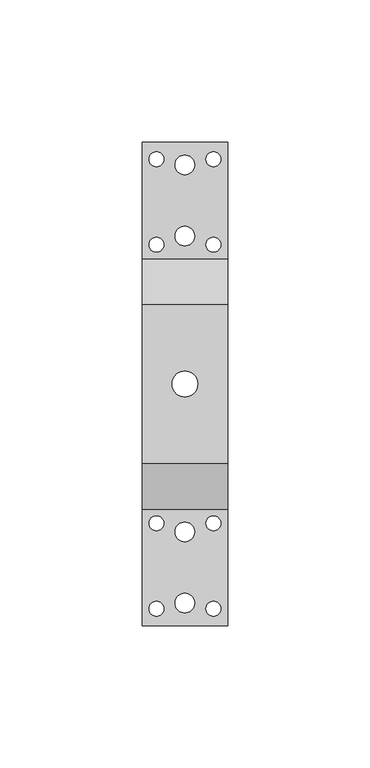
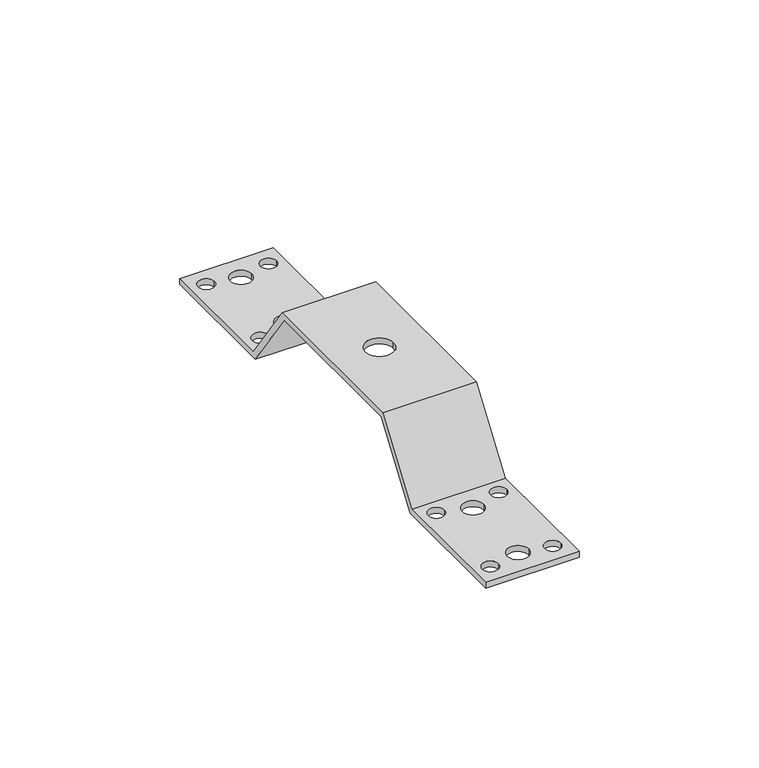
"""IFC4 building model written with IfcOpenShell, lengths in millimetres: proxy geometry, КНС_СкобаСоединительная_DKC : NA1201_Алюминий."""

from ifc_helpers import new_model, si_unit, frame, origin, place, context, project, spatial, polyline, circle_curve, source, transform, mapped, element, save
from ifc_brep_helpers import plane_surface, revolved_surface, advanced_brep


def security_devices_b8804d78(model_context):
    return source(origin(), model_context, "Body", "AdvancedBrep", [
        advanced_brep(
        [(15.0, 85.0, 0.0), (15.0, 85.0, 2.0), (15.0, 44.0411341, 2.0), (15.0, 27.9363607, 25.0), (15.0, -27.9363607, 25.0), (15.0, -44.0411341, 2.0), (15.0, -85.0, 2.0), (15.0, -85.0, 0.0), (15.0, -43.0, 0.0), (15.0, -26.8952266, 23.0), (15.0, 26.8952266, 23.0), (15.0, 43.0, 0.0), (-15.0, 85.0, 0.0), (-15.0, 43.0, 0.0), (-15.0, 26.8952266, 23.0), (-15.0, -26.8952266, 23.0), (-15.0, -43.0, 0.0), (-15.0, -85.0, 0.0), (-15.0, -85.0, 2.0), (-15.0, -44.0411341, 2.0), (-15.0, -27.9363607, 25.0), (-15.0, 27.9363607, 25.0), (-15.0, 44.0411341, 2.0), (-15.0, 85.0, 2.0), (3.45, 77.0, 2.0), (-3.45, 77.0, 2.0), (12.6, 79.0, 2.0), (7.4, 79.0, 2.0), (-7.4, 79.0, 2.0), (-12.6, 79.0, 2.0), (3.45, 52.0, 2.0), (-3.45, 52.0, 2.0), (12.6, 49.0, 2.0), (7.4, 49.0, 2.0), (-7.4, 49.0, 2.0), (-12.6, 49.0, 2.0), (4.5, 0.0, 25.0), (-4.5, 0.0, 25.0), (-4.5, 0.0, 23.0), (4.5, 0.0, 23.0), (-3.45, 77.0, 0.0), (3.45, 77.0, 0.0), (7.4, 79.0, 0.0), (12.6, 79.0, 0.0), (-12.6, 79.0, 0.0), (-7.4, 79.0, 0.0), (-3.45, 52.0, 0.0), (3.45, 52.0, 0.0), (7.4, 49.0, 0.0), (12.6, 49.0, 0.0), (-12.6, 49.0, 0.0), (-7.4, 49.0, 0.0), (-12.6, -49.0, 2.0), (-7.4, -49.0, 2.0), (-3.45, -52.0, 2.0), (3.45, -52.0, 2.0), (7.4, -49.0, 2.0), (12.6, -49.0, 2.0), (7.4, -79.0, 2.0), (12.6, -79.0, 2.0), (-3.45, -77.0, 2.0), (3.45, -77.0, 2.0), (-12.6, -79.0, 2.0), (-7.4, -79.0, 2.0), (-7.4, -49.0, 0.0), (-12.6, -49.0, 0.0), (3.45, -52.0, 0.0), (-3.45, -52.0, 0.0), (12.6, -49.0, 0.0), (7.4, -49.0, 0.0), (12.6, -79.0, 0.0), (7.4, -79.0, 0.0), (3.45, -77.0, 0.0), (-3.45, -77.0, 0.0), (-7.4, -79.0, 0.0), (-12.6, -79.0, 0.0)],
        [
            (0, 1),
            (1, 2),
            (2, 3),
            (3, 4),
            (4, 5),
            (5, 6),
            (6, 7),
            (7, 8),
            (8, 9),
            (9, 10),
            (10, 11),
            (11, 0),
            (12, 13),
            (13, 14),
            (14, 15),
            (15, 16),
            (16, 17),
            (17, 18),
            (18, 19),
            (19, 20),
            (20, 21),
            (21, 22),
            (22, 23),
            (23, 12),
            (0, 12),
            (23, 1),
            (22, 2),
            (24, 25, circle_curve(frame((0.0, 77.0, 2.0), z_axis=(0.0, 0.0, -1.0), x_axis=(1.0, 0.0, 0.0)), 3.45)),
            (25, 24, circle_curve(frame((0.0, 77.0, 2.0), z_axis=(0.0, 0.0, -1.0), x_axis=(1.0, 0.0, 0.0)), 3.45)),
            (26, 27, circle_curve(frame((10.0, 79.0, 2.0), z_axis=(0.0, 0.0, -1.0), x_axis=(-1.0, 0.0, 0.0)), 2.6)),
            (27, 26, circle_curve(frame((10.0, 79.0, 2.0), z_axis=(0.0, 0.0, -1.0), x_axis=(-1.0, 0.0, 0.0)), 2.6)),
            (28, 29, circle_curve(frame((-10.0, 79.0, 2.0), z_axis=(0.0, 0.0, -1.0), x_axis=(1.0, 0.0, 0.0)), 2.6)),
            (29, 28, circle_curve(frame((-10.0, 79.0, 2.0), z_axis=(0.0, 0.0, -1.0), x_axis=(1.0, 0.0, 0.0)), 2.6)),
            (30, 31, circle_curve(frame((0.0, 52.0, 2.0), z_axis=(0.0, 0.0, -1.0), x_axis=(1.0, 0.0, 0.0)), 3.45)),
            (31, 30, circle_curve(frame((0.0, 52.0, 2.0), z_axis=(0.0, 0.0, -1.0), x_axis=(1.0, 0.0, 0.0)), 3.45)),
            (32, 33, circle_curve(frame((10.0, 49.0, 2.0), z_axis=(0.0, 0.0, -1.0), x_axis=(-1.0, 0.0, 0.0)), 2.6)),
            (33, 32, circle_curve(frame((10.0, 49.0, 2.0), z_axis=(0.0, 0.0, -1.0), x_axis=(-1.0, 0.0, 0.0)), 2.6)),
            (34, 35, circle_curve(frame((-10.0, 49.0, 2.0), z_axis=(0.0, 0.0, -1.0), x_axis=(1.0, 0.0, 0.0)), 2.6)),
            (35, 34, circle_curve(frame((-10.0, 49.0, 2.0), z_axis=(0.0, 0.0, -1.0), x_axis=(1.0, 0.0, 0.0)), 2.6)),
            (3, 21),
            (20, 4),
            (36, 37, circle_curve(frame((0.0, 0.0, 25.0), z_axis=(0.0, 0.0, -1.0), x_axis=(1.0, 0.0, 0.0)), 4.5)),
            (37, 36, circle_curve(frame((0.0, 0.0, 25.0), z_axis=(0.0, 0.0, -1.0), x_axis=(1.0, 0.0, 0.0)), 4.5)),
            (9, 15),
            (14, 10),
            (38, 39, circle_curve(frame((0.0, 0.0, 23.0), z_axis=(0.0, 0.0, 1.0), x_axis=(1.0, 0.0, 0.0)), 4.5)),
            (39, 38, circle_curve(frame((0.0, 0.0, 23.0), z_axis=(0.0, 0.0, 1.0), x_axis=(1.0, 0.0, 0.0)), 4.5)),
            (11, 13),
            (40, 41, circle_curve(frame((0.0, 77.0, 0.0), z_axis=(0.0, 0.0, 1.0), x_axis=(1.0, 0.0, 0.0)), 3.45)),
            (41, 40, circle_curve(frame((0.0, 77.0, 0.0), z_axis=(0.0, 0.0, 1.0), x_axis=(1.0, 0.0, 0.0)), 3.45)),
            (42, 43, circle_curve(frame((10.0, 79.0, 0.0), z_axis=(0.0, 0.0, 1.0), x_axis=(-1.0, 0.0, 0.0)), 2.6)),
            (43, 42, circle_curve(frame((10.0, 79.0, 0.0), z_axis=(0.0, 0.0, 1.0), x_axis=(-1.0, 0.0, 0.0)), 2.6)),
            (44, 45, circle_curve(frame((-10.0, 79.0, 0.0), z_axis=(0.0, 0.0, 1.0), x_axis=(1.0, 0.0, 0.0)), 2.6)),
            (45, 44, circle_curve(frame((-10.0, 79.0, 0.0), z_axis=(0.0, 0.0, 1.0), x_axis=(1.0, 0.0, 0.0)), 2.6)),
            (46, 47, circle_curve(frame((0.0, 52.0, 0.0), z_axis=(0.0, 0.0, 1.0), x_axis=(1.0, 0.0, 0.0)), 3.45)),
            (47, 46, circle_curve(frame((0.0, 52.0, 0.0), z_axis=(0.0, 0.0, 1.0), x_axis=(1.0, 0.0, 0.0)), 3.45)),
            (48, 49, circle_curve(frame((10.0, 49.0, 0.0), z_axis=(0.0, 0.0, 1.0), x_axis=(-1.0, 0.0, 0.0)), 2.6)),
            (49, 48, circle_curve(frame((10.0, 49.0, 0.0), z_axis=(0.0, 0.0, 1.0), x_axis=(-1.0, 0.0, 0.0)), 2.6)),
            (50, 51, circle_curve(frame((-10.0, 49.0, 0.0), z_axis=(0.0, 0.0, 1.0), x_axis=(1.0, 0.0, 0.0)), 2.6)),
            (51, 50, circle_curve(frame((-10.0, 49.0, 0.0), z_axis=(0.0, 0.0, 1.0), x_axis=(1.0, 0.0, 0.0)), 2.6)),
            (19, 5),
            (18, 6),
            (52, 53, circle_curve(frame((-10.0, -49.0, 2.0), z_axis=(0.0, 0.0, -1.0), x_axis=(1.0, 0.0, 0.0)), 2.6)),
            (53, 52, circle_curve(frame((-10.0, -49.0, 2.0), z_axis=(0.0, 0.0, -1.0), x_axis=(1.0, 0.0, 0.0)), 2.6)),
            (54, 55, circle_curve(frame((0.0, -52.0, 2.0), z_axis=(0.0, 0.0, -1.0), x_axis=(1.0, 0.0, 0.0)), 3.45)),
            (55, 54, circle_curve(frame((0.0, -52.0, 2.0), z_axis=(0.0, 0.0, -1.0), x_axis=(1.0, 0.0, 0.0)), 3.45)),
            (56, 57, circle_curve(frame((10.0, -49.0, 2.0), z_axis=(0.0, 0.0, -1.0), x_axis=(-1.0, 0.0, 0.0)), 2.6)),
            (57, 56, circle_curve(frame((10.0, -49.0, 2.0), z_axis=(0.0, 0.0, -1.0), x_axis=(-1.0, 0.0, 0.0)), 2.6)),
            (58, 59, circle_curve(frame((10.0, -79.0, 2.0), z_axis=(0.0, 0.0, -1.0), x_axis=(-1.0, 0.0, 0.0)), 2.6)),
            (59, 58, circle_curve(frame((10.0, -79.0, 2.0), z_axis=(0.0, 0.0, -1.0), x_axis=(-1.0, 0.0, 0.0)), 2.6)),
            (60, 61, circle_curve(frame((0.0, -77.0, 2.0), z_axis=(0.0, 0.0, -1.0), x_axis=(1.0, 0.0, 0.0)), 3.45)),
            (61, 60, circle_curve(frame((0.0, -77.0, 2.0), z_axis=(0.0, 0.0, -1.0), x_axis=(1.0, 0.0, 0.0)), 3.45)),
            (62, 63, circle_curve(frame((-10.0, -79.0, 2.0), z_axis=(0.0, 0.0, -1.0), x_axis=(1.0, 0.0, 0.0)), 2.6)),
            (63, 62, circle_curve(frame((-10.0, -79.0, 2.0), z_axis=(0.0, 0.0, -1.0), x_axis=(1.0, 0.0, 0.0)), 2.6)),
            (17, 7),
            (16, 8),
            (64, 65, circle_curve(frame((-10.0, -49.0, 0.0), z_axis=(0.0, 0.0, 1.0), x_axis=(1.0, 0.0, 0.0)), 2.6)),
            (65, 64, circle_curve(frame((-10.0, -49.0, 0.0), z_axis=(0.0, 0.0, 1.0), x_axis=(1.0, 0.0, 0.0)), 2.6)),
            (66, 67, circle_curve(frame((0.0, -52.0, 0.0), z_axis=(0.0, 0.0, 1.0), x_axis=(1.0, 0.0, 0.0)), 3.45)),
            (67, 66, circle_curve(frame((0.0, -52.0, 0.0), z_axis=(0.0, 0.0, 1.0), x_axis=(1.0, 0.0, 0.0)), 3.45)),
            (68, 69, circle_curve(frame((10.0, -49.0, 0.0), z_axis=(0.0, 0.0, 1.0), x_axis=(-1.0, 0.0, 0.0)), 2.6)),
            (69, 68, circle_curve(frame((10.0, -49.0, 0.0), z_axis=(0.0, 0.0, 1.0), x_axis=(-1.0, 0.0, 0.0)), 2.6)),
            (70, 71, circle_curve(frame((10.0, -79.0, 0.0), z_axis=(0.0, 0.0, 1.0), x_axis=(-1.0, 0.0, 0.0)), 2.6)),
            (71, 70, circle_curve(frame((10.0, -79.0, 0.0), z_axis=(0.0, 0.0, 1.0), x_axis=(-1.0, 0.0, 0.0)), 2.6)),
            (72, 73, circle_curve(frame((0.0, -77.0, 0.0), z_axis=(0.0, 0.0, 1.0), x_axis=(1.0, 0.0, 0.0)), 3.45)),
            (73, 72, circle_curve(frame((0.0, -77.0, 0.0), z_axis=(0.0, 0.0, 1.0), x_axis=(1.0, 0.0, 0.0)), 3.45)),
            (74, 75, circle_curve(frame((-10.0, -79.0, 0.0), z_axis=(0.0, 0.0, 1.0), x_axis=(1.0, 0.0, 0.0)), 2.6)),
            (75, 74, circle_curve(frame((-10.0, -79.0, 0.0), z_axis=(0.0, 0.0, 1.0), x_axis=(1.0, 0.0, 0.0)), 2.6)),
            (24, 41),
            (40, 25),
            (26, 43),
            (42, 27),
            (28, 45),
            (44, 29),
            (30, 47),
            (46, 31),
            (32, 49),
            (48, 33),
            (34, 51),
            (50, 35),
            (36, 39),
            (38, 37),
            (52, 65),
            (64, 53),
            (54, 67),
            (66, 55),
            (56, 69),
            (68, 57),
            (58, 71),
            (70, 59),
            (60, 73),
            (72, 61),
            (62, 75),
            (74, 63),
        ],
        [
            plane_surface(frame((15.0, 85.0, -25.0), z_axis=(1.0, 0.0, 0.0), x_axis=(0.0, 0.0, 1.0))),
            plane_surface(frame((-15.0, 85.0, -25.0), z_axis=(-1.0, 0.0, 0.0), x_axis=(0.0, 0.0, -1.0))),
            plane_surface(frame((15.0, 85.0, 0.0), z_axis=(0.0, 1.0, 0.0), x_axis=(-1.0, 0.0, 0.0))),
            plane_surface(frame((15.0, 85.0, 2.0), z_axis=(0.0, 0.0, 1.0), x_axis=(-1.0, 0.0, 0.0))),
            plane_surface(frame((15.0, 27.9363607, 25.0), z_axis=(0.0, 0.0, 1.0), x_axis=(-1.0, 0.0, 0.0))),
            plane_surface(frame((15.0, -26.8952266, 23.0), z_axis=(0.0, 0.0, -1.0), x_axis=(-1.0, 0.0, 0.0))),
            plane_surface(frame((15.0, 43.0, 0.0), z_axis=(0.0, 0.0, -1.0), x_axis=(-1.0, 0.0, 0.0))),
            plane_surface(frame((15.0, 44.0411341, 2.0), z_axis=(0.0, 0.819152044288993, 0.5735764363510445), x_axis=(-1.0, 0.0, 0.0))),
            plane_surface(frame((15.0, -27.9363607, 25.0), z_axis=(0.0, -0.8191520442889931, 0.5735764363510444), x_axis=(-1.0, 0.0, 0.0))),
            plane_surface(frame((15.0, -44.0411341, 2.0), z_axis=(0.0, 0.0, 1.0), x_axis=(-1.0, 0.0, 0.0))),
            plane_surface(frame((15.0, -85.0, 2.0), z_axis=(0.0, -1.0, 0.0), x_axis=(-1.0, 0.0, 0.0))),
            plane_surface(frame((15.0, -85.0, 0.0), z_axis=(0.0, 0.0, -1.0), x_axis=(-1.0, 0.0, 0.0))),
            plane_surface(frame((15.0, -43.0, 0.0), z_axis=(0.0, 0.819152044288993, -0.5735764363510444), x_axis=(-1.0, 0.0, 0.0))),
            plane_surface(frame((15.0, 26.8952266, 23.0), z_axis=(0.0, -0.819152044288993, -0.5735764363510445), x_axis=(-1.0, 0.0, 0.0))),
            revolved_surface(polyline([(3.45, 77.0, 2.0), (3.45, 77.0, 0.0)]), (0.0, 77.0, 0.0), (0.0, 0.0, 1.0)),
            revolved_surface(polyline([(7.4, 79.0, 2.0), (7.4, 79.0, 0.0)]), (10.0, 79.0, 0.0), (0.0, 0.0, 1.0)),
            revolved_surface(polyline([(-7.4, 79.0, 2.0), (-7.4, 79.0, 0.0)]), (-10.0, 79.0, 0.0), (0.0, 0.0, 1.0)),
            revolved_surface(polyline([(3.45, 52.0, 2.0), (3.45, 52.0, 0.0)]), (0.0, 52.0, 0.0), (0.0, 0.0, 1.0)),
            revolved_surface(polyline([(7.4, 49.0, 2.0), (7.4, 49.0, 0.0)]), (10.0, 49.0, 0.0), (0.0, 0.0, 1.0)),
            revolved_surface(polyline([(-7.4, 49.0, 2.0), (-7.4, 49.0, 0.0)]), (-10.0, 49.0, 0.0), (0.0, 0.0, 1.0)),
            revolved_surface(polyline([(4.5, 0.0, 25.0), (4.5, 0.0, 23.0)]), (0.0, 0.0, 23.0), (0.0, 0.0, 1.0)),
            revolved_surface(polyline([(-7.4, -49.0, 2.0), (-7.4, -49.0, 0.0)]), (-10.0, -49.0, 0.0), (0.0, 0.0, 1.0)),
            revolved_surface(polyline([(3.45, -52.0, 2.0), (3.45, -52.0, 0.0)]), (0.0, -52.0, 0.0), (0.0, 0.0, 1.0)),
            revolved_surface(polyline([(7.4, -49.0, 2.0), (7.4, -49.0, 0.0)]), (10.0, -49.0, 0.0), (0.0, 0.0, 1.0)),
            revolved_surface(polyline([(7.4, -79.0, 2.0), (7.4, -79.0, 0.0)]), (10.0, -79.0, 0.0), (0.0, 0.0, 1.0)),
            revolved_surface(polyline([(3.45, -77.0, 2.0), (3.45, -77.0, 0.0)]), (0.0, -77.0, 0.0), (0.0, 0.0, 1.0)),
            revolved_surface(polyline([(-7.4, -79.0, 2.0), (-7.4, -79.0, 0.0)]), (-10.0, -79.0, 0.0), (0.0, 0.0, 1.0)),
        ],
        [
            (0, [[1, 2, 3, 4, 5, 6, 7, 8, 9, 10, 11, 12]]),
            (1, [[13, 14, 15, 16, 17, 18, 19, 20, 21, 22, 23, 24]]),
            (2, [[-1, 25, -24, 26]]),
            (3, [[-2, -26, -23, 27], [28, 29], [30, 31], [32, 33], [34, 35], [36, 37], [38, 39]]),
            (4, [[-4, 40, -21, 41], [42, 43]]),
            (5, [[-10, 44, -15, 45], [46, 47]]),
            (6, [[-12, 48, -13, -25], [49, 50], [51, 52], [53, 54], [55, 56], [57, 58], [59, 60]]),
            (7, [[-3, -27, -22, -40]]),
            (8, [[-5, -41, -20, 61]]),
            (9, [[-6, -61, -19, 62], [63, 64], [65, 66], [67, 68], [69, 70], [71, 72], [73, 74]]),
            (10, [[-7, -62, -18, 75]]),
            (11, [[-8, -75, -17, 76], [77, 78], [79, 80], [81, 82], [83, 84], [85, 86], [87, 88]]),
            (12, [[-9, -76, -16, -44]]),
            (13, [[-11, -45, -14, -48]]),
            (14, [[89, -49, 90, -28]]),
            (14, [[-89, -29, -90, -50]]),
            (15, [[91, -51, 92, -30]]),
            (15, [[-91, -31, -92, -52]]),
            (16, [[93, -53, 94, -32]]),
            (16, [[-93, -33, -94, -54]]),
            (17, [[95, -55, 96, -34]]),
            (17, [[-95, -35, -96, -56]]),
            (18, [[97, -57, 98, -36]]),
            (18, [[-97, -37, -98, -58]]),
            (19, [[99, -59, 100, -38]]),
            (19, [[-99, -39, -100, -60]]),
            (20, [[101, -46, 102, -42]]),
            (20, [[-101, -43, -102, -47]]),
            (21, [[103, -77, 104, -63]]),
            (21, [[-103, -64, -104, -78]]),
            (22, [[105, -79, 106, -65]]),
            (22, [[-105, -66, -106, -80]]),
            (23, [[107, -81, 108, -67]]),
            (23, [[-107, -68, -108, -82]]),
            (24, [[109, -83, 110, -69]]),
            (24, [[-109, -70, -110, -84]]),
            (25, [[111, -85, 112, -71]]),
            (25, [[-111, -72, -112, -86]]),
            (26, [[113, -87, 114, -73]]),
            (26, [[-113, -74, -114, -88]]),
        ],
    ),
    ])


if __name__ == "__main__":
    model = new_model("IFC4")
    model_context = context("Model", 3, world=origin())
    ifc_project = project(units=[si_unit("LENGTHUNIT", "METRE", prefix="MILLI")], contexts=[model_context])
    site = spatial("IfcSite", under=ifc_project)
    building = spatial("IfcBuilding", under=site)
    placement = place(None, origin())
    security_devices_shape = security_devices_b8804d78(model_context)
    element("IfcBuildingElementProxy", 1, Name="КНС_СкобаСоединительная_DKC : NA1201_Алюминий", ObjectType="КНС_СкобаСоединительная_DKC : NA1201_Алюминий", at=placement, inside=building, context=model_context, shape_type="MappedRepresentation", body=[
        mapped(security_devices_shape, transform((0.0, 0.0, 0.0), x_axis=(1.0, 0.0, 0.0), y_axis=(0.0, 1.0, 0.0), z_axis=(0.0, 0.0, 1.0))),
    ])
    save(model, "model.ifc")
